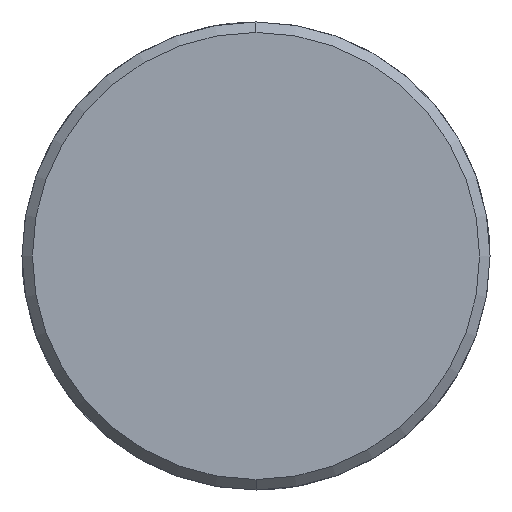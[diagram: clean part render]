
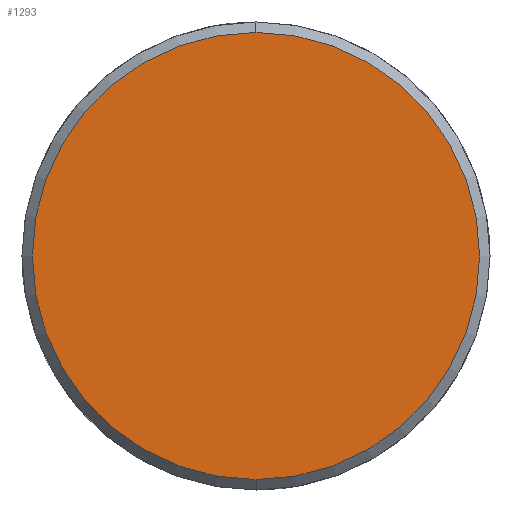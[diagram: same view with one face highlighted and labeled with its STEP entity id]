
A CAD part, left-side view. The second image highlights one B-rep face of the part: STEP entity #1293.
In plain terms, the highlighted planar face has unit normal (-1, 0, 0).
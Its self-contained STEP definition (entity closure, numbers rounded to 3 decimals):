
#1225=CARTESIAN_POINT('Vertex',(-7.,0.,-21.5)) ;
#1228=CARTESIAN_POINT('Axis2P3D Location',(-7.,0.,0.)) ;
#1232=CARTESIAN_POINT('Vertex',(-7.,21.5,0.)) ;
#1235=CARTESIAN_POINT('Axis2P3D Location',(-7.,0.,0.)) ;
#1239=CARTESIAN_POINT('Vertex',(-7.,0.,21.5)) ;
#1261=CARTESIAN_POINT('Axis2P3D Location',(-7.,0.,0.)) ;
#1265=CARTESIAN_POINT('Vertex',(-7.,-21.5,0.)) ;
#1268=CARTESIAN_POINT('Axis2P3D Location',(-7.,0.,0.)) ;
#1282=CARTESIAN_POINT('Axis2P3D Location',(-7.,0.,0.)) ;
#1229=DIRECTION('Axis2P3D Direction',(1.,0.,-0.)) ;
#1236=DIRECTION('Axis2P3D Direction',(1.,0.,-0.)) ;
#1262=DIRECTION('Axis2P3D Direction',(1.,0.,-0.)) ;
#1269=DIRECTION('Axis2P3D Direction',(1.,0.,-0.)) ;
#1283=DIRECTION('Axis2P3D Direction',(1.,0.,-0.)) ;
#1284=DIRECTION('Axis2P3D XDirection',(-0.,0.,-1.)) ;
#1230=AXIS2_PLACEMENT_3D('Circle Axis2P3D',#1228,#1229,$) ;
#1237=AXIS2_PLACEMENT_3D('Circle Axis2P3D',#1235,#1236,$) ;
#1263=AXIS2_PLACEMENT_3D('Circle Axis2P3D',#1261,#1262,$) ;
#1270=AXIS2_PLACEMENT_3D('Circle Axis2P3D',#1268,#1269,$) ;
#1285=AXIS2_PLACEMENT_3D('Plane Axis2P3D',#1282,#1283,#1284) ;
#1288=ORIENTED_EDGE('',*,*,#1234,.F.) ;
#1289=ORIENTED_EDGE('',*,*,#1272,.F.) ;
#1290=ORIENTED_EDGE('',*,*,#1267,.F.) ;
#1291=ORIENTED_EDGE('',*,*,#1241,.F.) ;
#1293=ADVANCED_FACE('351-32X76X140',(#1292),#1286,.F.) ;
#1231=CIRCLE('generated circle',#1230,21.5) ;
#1238=CIRCLE('generated circle',#1237,21.5) ;
#1264=CIRCLE('generated circle',#1263,21.5) ;
#1271=CIRCLE('generated circle',#1270,21.5) ;
#1234=EDGE_CURVE('',#1226,#1233,#1231,.T.) ;
#1241=EDGE_CURVE('',#1233,#1240,#1238,.T.) ;
#1267=EDGE_CURVE('',#1240,#1266,#1264,.T.) ;
#1272=EDGE_CURVE('',#1266,#1226,#1271,.T.) ;
#1287=EDGE_LOOP('',(#1288,#1289,#1290,#1291)) ;
#1292=FACE_OUTER_BOUND('',#1287,.T.) ;
#1286=PLANE('Plane',#1285) ;
#1226=VERTEX_POINT('',#1225) ;
#1233=VERTEX_POINT('',#1232) ;
#1240=VERTEX_POINT('',#1239) ;
#1266=VERTEX_POINT('',#1265) ;
